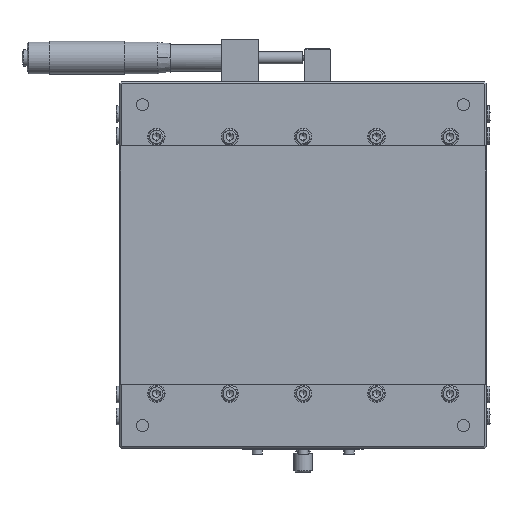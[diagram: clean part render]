
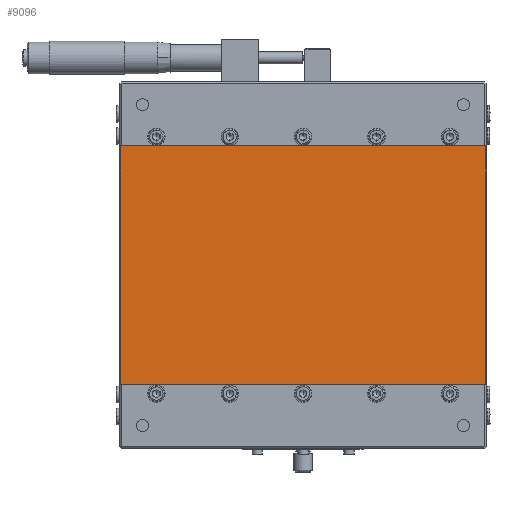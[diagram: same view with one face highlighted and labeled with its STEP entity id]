
A CAD part, front view. The second image highlights one B-rep face of the part: STEP entity #9096.
In plain terms, the highlighted planar face has unit normal (0, -1, 0).
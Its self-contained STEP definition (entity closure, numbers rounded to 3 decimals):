
#619 = LINE ( 'NONE', #620, #15990 ) ;
#620 = CARTESIAN_POINT ( 'NONE',  ( 93.509, -2.685, -65. ) ) ;
#621 = DIRECTION ( 'NONE',  ( 0., 0., 1. ) ) ;
#1656 = VERTEX_POINT ( 'NONE', #14514 ) ;
#1658 = VERTEX_POINT ( 'NONE', #14515 ) ;
#1688 = EDGE_CURVE ( 'NONE', #32036, #31995, #14553, .T. ) ;
#1951 = EDGE_CURVE ( 'NONE', #31995, #1656, #619, .T. ) ;
#7602 = VECTOR ( 'NONE', #19555, 1000. ) ;
#7715 = VECTOR ( 'NONE', #18899, 1000. ) ;
#9096 = ADVANCED_FACE ( 'NONE', ( #23121 ), #23122, .T. ) ;
#10672 = CARTESIAN_POINT ( 'NONE',  ( 93.509, -2.685, -65. ) ) ;
#10754 = CARTESIAN_POINT ( 'NONE',  ( -105.091, -2.685, -65. ) ) ;
#11425 = AXIS2_PLACEMENT_3D ( 'NONE', #23113, #23124, #23125 ) ;
#12740 = ORIENTED_EDGE ( 'NONE', *, *, #25869, .T. ) ;
#12743 = ORIENTED_EDGE ( 'NONE', *, *, #25958, .T. ) ;
#12745 = ORIENTED_EDGE ( 'NONE', *, *, #1688, .T. ) ;
#13040 = EDGE_LOOP ( 'NONE', ( #12740, #12743, #12745, #23906 ) ) ;
#14514 = CARTESIAN_POINT ( 'NONE',  ( 93.509, -2.685, 65. ) ) ;
#14515 = CARTESIAN_POINT ( 'NONE',  ( -105.091, -2.685, 65. ) ) ;
#14553 = LINE ( 'NONE', #14558, #15882 ) ;
#14558 = CARTESIAN_POINT ( 'NONE',  ( -185.15, -2.685, -65. ) ) ;
#14561 = DIRECTION ( 'NONE',  ( 1., 0., 0. ) ) ;
#15882 = VECTOR ( 'NONE', #14561, 1000. ) ;
#15990 = VECTOR ( 'NONE', #621, 1000. ) ;
#18887 = CARTESIAN_POINT ( 'NONE',  ( -185.15, -2.685, 65. ) ) ;
#18894 = LINE ( 'NONE', #18887, #7715 ) ;
#18899 = DIRECTION ( 'NONE',  ( -1., 0., 0. ) ) ;
#19550 = LINE ( 'NONE', #19553, #7602 ) ;
#19553 = CARTESIAN_POINT ( 'NONE',  ( -105.091, -2.685, -65. ) ) ;
#19555 = DIRECTION ( 'NONE',  ( 0., 0., -1. ) ) ;
#23113 = CARTESIAN_POINT ( 'NONE',  ( -185.15, -2.685, -65. ) ) ;
#23121 = FACE_OUTER_BOUND ( 'NONE', #13040, .T. ) ;
#23122 = PLANE ( 'NONE',  #11425 ) ;
#23124 = DIRECTION ( 'NONE',  ( 0., -1., 0. ) ) ;
#23125 = DIRECTION ( 'NONE',  ( 0., 0., -1. ) ) ;
#23906 = ORIENTED_EDGE ( 'NONE', *, *, #1951, .T. ) ;
#25869 = EDGE_CURVE ( 'NONE', #1656, #1658, #18894, .T. ) ;
#25958 = EDGE_CURVE ( 'NONE', #1658, #32036, #19550, .T. ) ;
#31995 = VERTEX_POINT ( 'NONE', #10672 ) ;
#32036 = VERTEX_POINT ( 'NONE', #10754 ) ;
